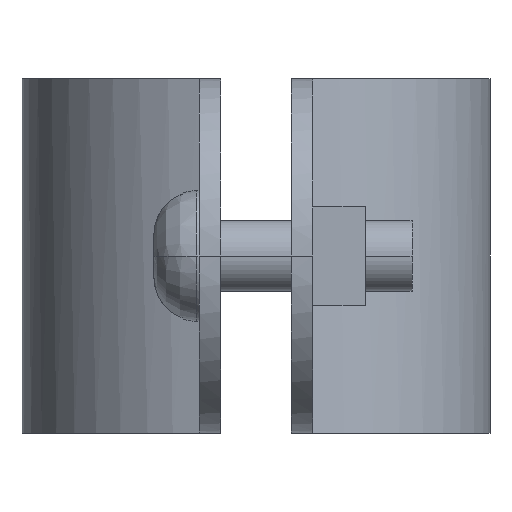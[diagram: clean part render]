
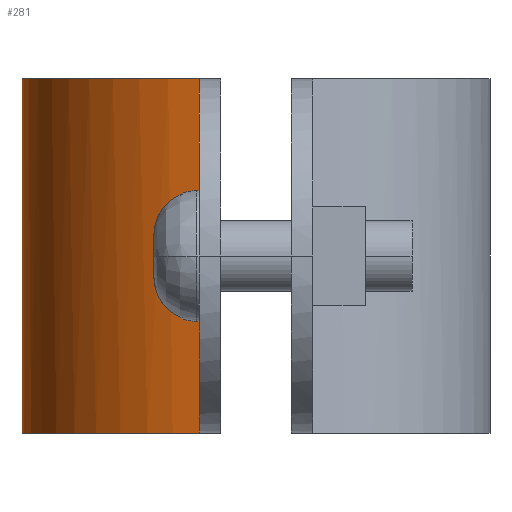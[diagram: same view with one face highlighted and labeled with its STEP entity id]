
A CAD part, left-side view. The second image highlights one B-rep face of the part: STEP entity #281.
In plain terms, the highlighted free-form (B-spline) face has degree [3, 1] with [4, 2] control points.
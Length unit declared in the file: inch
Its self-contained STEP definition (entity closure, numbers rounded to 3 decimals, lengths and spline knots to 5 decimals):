
#281=ADVANCED_FACE('',(#548),#549,.T.);
#548=FACE_OUTER_BOUND('',#962,.T.);
#549=B_SPLINE_SURFACE_WITH_KNOTS('',3,1,((#963,#964),(#965,#966),(#967,#968),(#969,#970)),.UNSPECIFIED.,.F.,.F.,.F.,(4,4),(2,2),(-1.0,-0.0),(0.0,1.25),.UNSPECIFIED.);
#962=EDGE_LOOP('',(#1857,#1858,#1859,#1860));
#963=CARTESIAN_POINT('',(1.33148,1.84027,0.0));
#964=CARTESIAN_POINT('',(1.33148,1.84027,1.25));
#965=CARTESIAN_POINT('',(0.95289,1.84027,0.0));
#966=CARTESIAN_POINT('',(0.95289,1.84027,1.25));
#967=CARTESIAN_POINT('',(0.62287,1.58258,0.0));
#968=CARTESIAN_POINT('',(0.62287,1.58258,1.25));
#969=CARTESIAN_POINT('',(0.53111,1.21527,0.0));
#970=CARTESIAN_POINT('',(0.53111,1.21527,1.25));
#1857=ORIENTED_EDGE('',*,*,#2247,.T.);
#1858=ORIENTED_EDGE('',*,*,#2135,.T.);
#1859=ORIENTED_EDGE('',*,*,#2221,.T.);
#1860=ORIENTED_EDGE('',*,*,#2158,.F.);
#2135=EDGE_CURVE('',#2487,#2489,#2491,.T.);
#2158=EDGE_CURVE('',#2522,#2524,#2525,.T.);
#2221=EDGE_CURVE('',#2489,#2524,#2612,.T.);
#2247=EDGE_CURVE('',#2522,#2487,#2643,.T.);
#2487=VERTEX_POINT('',#3044);
#2489=VERTEX_POINT('',#3047);
#2491=LINE('',#3050,#3051);
#2522=VERTEX_POINT('',#3136);
#2524=VERTEX_POINT('',#3139);
#2525=LINE('',#3140,#3141);
#2612=B_SPLINE_CURVE_WITH_KNOTS('',3,(#3316,#3317,#3318,#3319),.UNSPECIFIED.,.F.,.F.,(4,4),(0.0,1.0),.UNSPECIFIED.);
#2643=B_SPLINE_CURVE_WITH_KNOTS('',3,(#3390,#3391,#3392,#3393),.UNSPECIFIED.,.F.,.F.,(4,4),(-1.0,-0.0),.UNSPECIFIED.);
#3044=CARTESIAN_POINT('',(0.53111,1.21527,0.00011));
#3047=CARTESIAN_POINT('',(0.53111,1.21527,1.24989));
#3050=CARTESIAN_POINT('',(0.53111,1.21527,0.0));
#3051=VECTOR('',#3594,1.0);
#3136=CARTESIAN_POINT('',(1.33148,1.84027,0.00011));
#3139=CARTESIAN_POINT('',(1.33148,1.84027,1.24989));
#3140=CARTESIAN_POINT('',(1.33148,1.84027,0.0));
#3141=VECTOR('',#3602,1.0);
#3316=CARTESIAN_POINT('',(0.53111,1.21527,1.24989));
#3317=CARTESIAN_POINT('',(0.62287,1.58258,1.24989));
#3318=CARTESIAN_POINT('',(0.95289,1.84027,1.24989));
#3319=CARTESIAN_POINT('',(1.33148,1.84027,1.24989));
#3390=CARTESIAN_POINT('',(1.33148,1.84027,0.00011));
#3391=CARTESIAN_POINT('',(0.95289,1.84027,0.00011));
#3392=CARTESIAN_POINT('',(0.62287,1.58258,0.00011));
#3393=CARTESIAN_POINT('',(0.53111,1.21527,0.00011));
#3594=DIRECTION('',(0.0,0.0,1.0));
#3602=DIRECTION('',(0.0,0.0,1.0));
